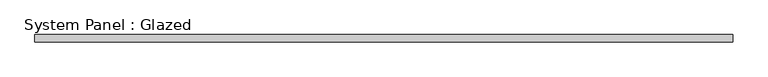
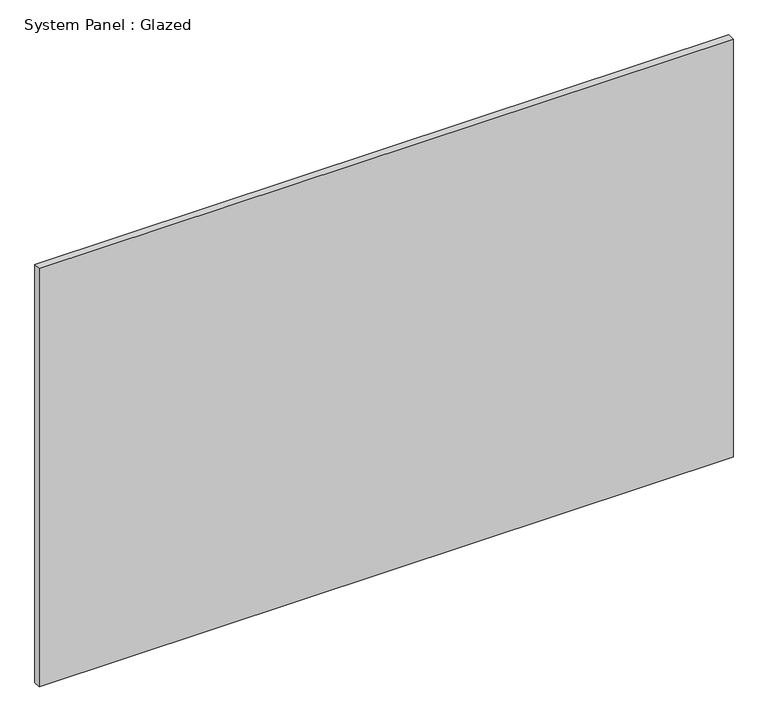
"""IFC4 building model written with IfcOpenShell, lengths in millimetres: plate geometry, System Panel : Glazed."""

from ifc_helpers import new_model, si_unit, origin, origin_with_axes, place, context, project, spatial, polyline, outline, extrude, source, transform, mapped, element, save


def system_panel_glazed_a79b9b6a(model_context):
    return source(origin(), model_context, "Body", "SweptSolid", [
        extrude(outline(polyline([(1235.2309405, 19.05), (-1235.2309405, 19.05), (-1235.2309405, 44.45), (1235.2309405, 44.45), (1235.2309405, 19.05)])), origin_with_axes(), (0.0, 0.0, 1.0), 1574.8),
    ])


if __name__ == "__main__":
    model = new_model("IFC4")
    model_context = context("Model", 3, world=origin())
    ifc_project = project(units=[si_unit("LENGTHUNIT", "METRE", prefix="MILLI")], contexts=[model_context])
    site = spatial("IfcSite", under=ifc_project)
    building = spatial("IfcBuilding", under=site)
    placement = place(None, origin())
    system_panel_glazed_shape = system_panel_glazed_a79b9b6a(model_context)
    element("IfcPlate", 1, ObjectType="System Panel : Glazed", at=placement, inside=building, context=model_context, shape_type="MappedRepresentation", body=[
        mapped(system_panel_glazed_shape, transform((0.0, 0.0, 0.0), x_axis=(1.0, 0.0, 0.0), y_axis=(0.0, 1.0, 0.0), z_axis=(0.0, 0.0, 1.0))),
    ])
    save(model, "model.ifc")
